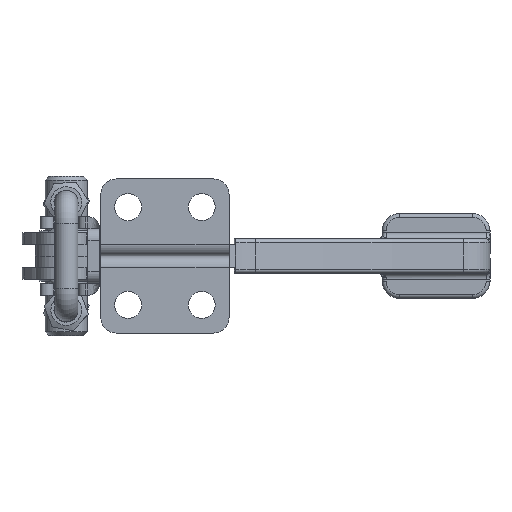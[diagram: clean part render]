
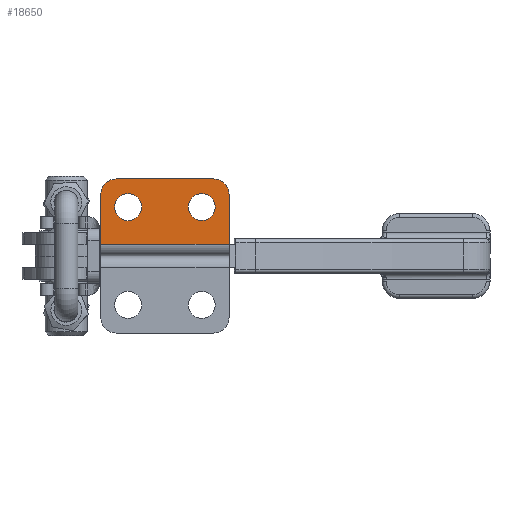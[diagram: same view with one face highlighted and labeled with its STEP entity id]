
A CAD part, front view. The second image highlights one B-rep face of the part: STEP entity #18650.
In plain terms, the highlighted planar face has unit normal (0, -1, 0).
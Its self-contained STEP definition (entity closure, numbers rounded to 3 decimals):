
#430=FACE_BOUND('',#5622,.T.);
#431=FACE_BOUND('',#5623,.T.);
#521=PLANE('',#20161);
#1586=LINE('',#29679,#3068);
#1590=LINE('',#29688,#3072);
#1591=LINE('',#29692,#3073);
#1592=LINE('',#29694,#3074);
#3068=VECTOR('',#22445,1000.);
#3072=VECTOR('',#22453,1000.);
#3073=VECTOR('',#22456,1000.);
#3074=VECTOR('',#22459,1000.);
#4495=FACE_OUTER_BOUND('',#5621,.T.);
#5621=EDGE_LOOP('',(#13674,#13675,#13676,#13677,#13678,#13679));
#5622=EDGE_LOOP('',(#13680,#13681));
#5623=EDGE_LOOP('',(#13682,#13683));
#7404=CIRCLE('',#20127,3.5);
#7405=CIRCLE('',#20128,3.5);
#7408=CIRCLE('',#20132,3.5);
#7409=CIRCLE('',#20133,3.5);
#7431=CIRCLE('',#20162,4.);
#7432=CIRCLE('',#20163,4.);
#8222=VERTEX_POINT('',#28776);
#8223=VERTEX_POINT('',#28777);
#8226=VERTEX_POINT('',#28786);
#8227=VERTEX_POINT('',#28787);
#8347=VERTEX_POINT('',#29677);
#8348=VERTEX_POINT('',#29678);
#8350=VERTEX_POINT('',#29686);
#8351=VERTEX_POINT('',#29687);
#8352=VERTEX_POINT('',#29689);
#8353=VERTEX_POINT('',#29691);
#10212=EDGE_CURVE('',#8222,#8223,#7404,.T.);
#10213=EDGE_CURVE('',#8223,#8222,#7405,.T.);
#10217=EDGE_CURVE('',#8226,#8227,#7408,.T.);
#10218=EDGE_CURVE('',#8227,#8226,#7409,.T.);
#10343=EDGE_CURVE('',#8347,#8348,#1586,.T.);
#10348=EDGE_CURVE('',#8350,#8351,#1590,.T.);
#10349=EDGE_CURVE('',#8350,#8352,#7431,.T.);
#10350=EDGE_CURVE('',#8353,#8352,#1591,.T.);
#10351=EDGE_CURVE('',#8353,#8347,#7432,.T.);
#10352=EDGE_CURVE('',#8348,#8351,#1592,.T.);
#13674=ORIENTED_EDGE('',*,*,#10348,.F.);
#13675=ORIENTED_EDGE('',*,*,#10349,.T.);
#13676=ORIENTED_EDGE('',*,*,#10350,.F.);
#13677=ORIENTED_EDGE('',*,*,#10351,.T.);
#13678=ORIENTED_EDGE('',*,*,#10343,.T.);
#13679=ORIENTED_EDGE('',*,*,#10352,.T.);
#13680=ORIENTED_EDGE('',*,*,#10212,.T.);
#13681=ORIENTED_EDGE('',*,*,#10213,.T.);
#13682=ORIENTED_EDGE('',*,*,#10217,.T.);
#13683=ORIENTED_EDGE('',*,*,#10218,.T.);
#18650=ADVANCED_FACE('',(#4495,#430,#431),#521,.F.);
#20127=AXIS2_PLACEMENT_3D('',#28778,#22315,#22316);
#20128=AXIS2_PLACEMENT_3D('',#28779,#22317,#22318);
#20132=AXIS2_PLACEMENT_3D('',#28788,#22326,#22327);
#20133=AXIS2_PLACEMENT_3D('',#28789,#22328,#22329);
#20161=AXIS2_PLACEMENT_3D('',#29685,#22451,#22452);
#20162=AXIS2_PLACEMENT_3D('',#29690,#22454,#22455);
#20163=AXIS2_PLACEMENT_3D('',#29693,#22457,#22458);
#22315=DIRECTION('center_axis',(0.,1.,0.));
#22316=DIRECTION('ref_axis',(0.,0.,1.));
#22317=DIRECTION('center_axis',(0.,1.,0.));
#22318=DIRECTION('ref_axis',(0.,0.,1.));
#22326=DIRECTION('center_axis',(0.,1.,0.));
#22327=DIRECTION('ref_axis',(0.,0.,1.));
#22328=DIRECTION('center_axis',(0.,1.,0.));
#22329=DIRECTION('ref_axis',(0.,0.,1.));
#22445=DIRECTION('',(0.,0.,-1.));
#22451=DIRECTION('center_axis',(0.,1.,0.));
#22452=DIRECTION('ref_axis',(0.,0.,1.));
#22453=DIRECTION('',(0.,0.,-1.));
#22454=DIRECTION('center_axis',(0.,-1.,0.));
#22455=DIRECTION('ref_axis',(0.,0.,1.));
#22456=DIRECTION('',(1.,0.,0.));
#22457=DIRECTION('center_axis',(0.,-1.,0.));
#22458=DIRECTION('ref_axis',(0.,0.,1.));
#22459=DIRECTION('',(1.,0.,0.));
#28776=CARTESIAN_POINT('',(36.232,2.538,16.2));
#28777=CARTESIAN_POINT('',(36.232,2.538,9.2));
#28778=CARTESIAN_POINT('Origin',(36.232,2.538,12.7));
#28779=CARTESIAN_POINT('Origin',(36.232,2.538,12.7));
#28786=CARTESIAN_POINT('',(55.332,2.538,16.2));
#28787=CARTESIAN_POINT('',(55.332,2.538,9.2));
#28788=CARTESIAN_POINT('Origin',(55.332,2.538,12.7));
#28789=CARTESIAN_POINT('Origin',(55.332,2.538,12.7));
#29677=CARTESIAN_POINT('',(29.132,2.538,16.));
#29678=CARTESIAN_POINT('',(29.132,2.538,3.));
#29679=CARTESIAN_POINT('',(29.132,2.538,3.));
#29685=CARTESIAN_POINT('Origin',(29.132,2.538,3.));
#29686=CARTESIAN_POINT('',(62.432,2.538,16.));
#29687=CARTESIAN_POINT('',(62.432,2.538,3.));
#29688=CARTESIAN_POINT('',(62.432,2.538,3.));
#29689=CARTESIAN_POINT('',(58.432,2.538,20.));
#29690=CARTESIAN_POINT('Origin',(58.432,2.538,16.));
#29691=CARTESIAN_POINT('',(33.132,2.538,20.));
#29692=CARTESIAN_POINT('',(29.132,2.538,20.));
#29693=CARTESIAN_POINT('Origin',(33.132,2.538,16.));
#29694=CARTESIAN_POINT('',(29.132,2.538,3.));
